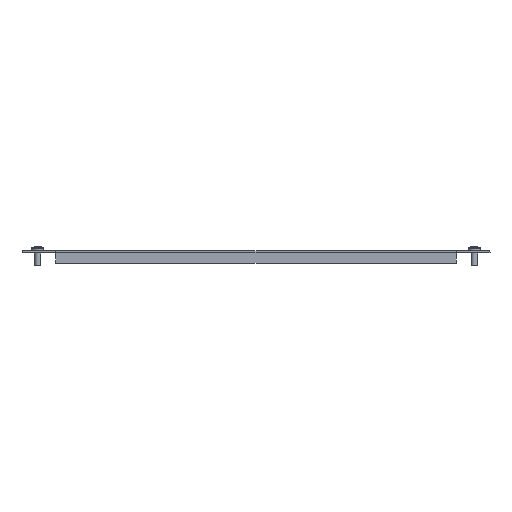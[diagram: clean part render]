
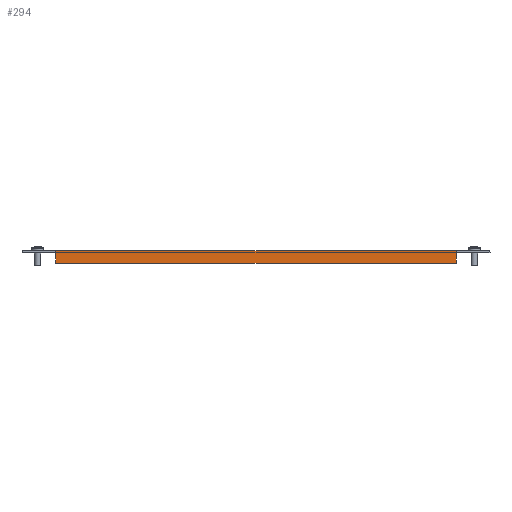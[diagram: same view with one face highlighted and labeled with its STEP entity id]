
A CAD part, front view. The second image highlights one B-rep face of the part: STEP entity #294.
In plain terms, the highlighted planar face has unit normal (0, -1, 0).
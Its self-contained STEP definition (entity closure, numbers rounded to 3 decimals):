
#18 = LINE ( 'NONE', #384, #973 ) ;
#30 = VERTEX_POINT ( 'NONE', #1623 ) ;
#102 = CARTESIAN_POINT ( 'NONE',  ( -160.5, -435., -10. ) ) ;
#183 = ORIENTED_EDGE ( 'NONE', *, *, #2658, .F. ) ;
#201 = CARTESIAN_POINT ( 'NONE',  ( -160.5, -435., -10. ) ) ;
#294 = ADVANCED_FACE ( 'NONE', ( #4024 ), #609, .T. ) ;
#332 = LINE ( 'NONE', #3367, #3681 ) ;
#384 = CARTESIAN_POINT ( 'NONE',  ( -160.5, -435., 0. ) ) ;
#526 = LINE ( 'NONE', #3970, #2289 ) ;
#609 = PLANE ( 'NONE',  #1137 ) ;
#682 = VERTEX_POINT ( 'NONE', #201 ) ;
#757 = VERTEX_POINT ( 'NONE', #2612 ) ;
#821 = EDGE_CURVE ( 'NONE', #757, #2319, #889, .T. ) ;
#889 = LINE ( 'NONE', #3553, #1784 ) ;
#973 = VECTOR ( 'NONE', #2123, 1000. ) ;
#1028 = VECTOR ( 'NONE', #2866, 1000. ) ;
#1054 = DIRECTION ( 'NONE',  ( -1., 0., 0. ) ) ;
#1137 = AXIS2_PLACEMENT_3D ( 'NONE', #4383, #2668, #2575 ) ;
#1256 = VERTEX_POINT ( 'NONE', #1355 ) ;
#1355 = CARTESIAN_POINT ( 'NONE',  ( -160.5, -435., 0. ) ) ;
#1528 = EDGE_CURVE ( 'NONE', #682, #30, #526, .T. ) ;
#1577 = DIRECTION ( 'NONE',  ( 0., 0., 1. ) ) ;
#1623 = CARTESIAN_POINT ( 'NONE',  ( -160.5, -435., -2.4 ) ) ;
#1784 = VECTOR ( 'NONE', #1577, 1000. ) ;
#1892 = EDGE_CURVE ( 'NONE', #3346, #682, #3525, .T. ) ;
#2005 = ORIENTED_EDGE ( 'NONE', *, *, #1892, .F. ) ;
#2123 = DIRECTION ( 'NONE',  ( 0., 0., 1. ) ) ;
#2197 = EDGE_CURVE ( 'NONE', #757, #3346, #332, .T. ) ;
#2273 = EDGE_CURVE ( 'NONE', #2319, #1256, #3393, .T. ) ;
#2289 = VECTOR ( 'NONE', #4397, 1000. ) ;
#2319 = VERTEX_POINT ( 'NONE', #2733 ) ;
#2389 = VECTOR ( 'NONE', #1054, 1000. ) ;
#2575 = DIRECTION ( 'NONE',  ( 0., 0., -1. ) ) ;
#2612 = CARTESIAN_POINT ( 'NONE',  ( 160.5, -435., -2.4 ) ) ;
#2658 = EDGE_CURVE ( 'NONE', #30, #1256, #18, .T. ) ;
#2668 = DIRECTION ( 'NONE',  ( 0., -1., 0. ) ) ;
#2733 = CARTESIAN_POINT ( 'NONE',  ( 160.5, -435., 0. ) ) ;
#2785 = EDGE_LOOP ( 'NONE', ( #4361, #2895, #4100, #183, #4330, #2005 ) ) ;
#2866 = DIRECTION ( 'NONE',  ( -1., 0., 0. ) ) ;
#2895 = ORIENTED_EDGE ( 'NONE', *, *, #821, .T. ) ;
#3034 = CARTESIAN_POINT ( 'NONE',  ( 0., -435., 0. ) ) ;
#3346 = VERTEX_POINT ( 'NONE', #4291 ) ;
#3367 = CARTESIAN_POINT ( 'NONE',  ( 160.5, -435., -10. ) ) ;
#3393 = LINE ( 'NONE', #3034, #2389 ) ;
#3525 = LINE ( 'NONE', #102, #1028 ) ;
#3553 = CARTESIAN_POINT ( 'NONE',  ( 160.5, -435., -2.4 ) ) ;
#3681 = VECTOR ( 'NONE', #4117, 1000. ) ;
#3970 = CARTESIAN_POINT ( 'NONE',  ( -160.5, -435., -1.8 ) ) ;
#4024 = FACE_OUTER_BOUND ( 'NONE', #2785, .T. ) ;
#4100 = ORIENTED_EDGE ( 'NONE', *, *, #2273, .T. ) ;
#4117 = DIRECTION ( 'NONE',  ( 0., 0., -1. ) ) ;
#4291 = CARTESIAN_POINT ( 'NONE',  ( 160.5, -435., -10. ) ) ;
#4330 = ORIENTED_EDGE ( 'NONE', *, *, #1528, .F. ) ;
#4361 = ORIENTED_EDGE ( 'NONE', *, *, #2197, .F. ) ;
#4383 = CARTESIAN_POINT ( 'NONE',  ( 0., -435., 0. ) ) ;
#4397 = DIRECTION ( 'NONE',  ( 0., 0., 1. ) ) ;
